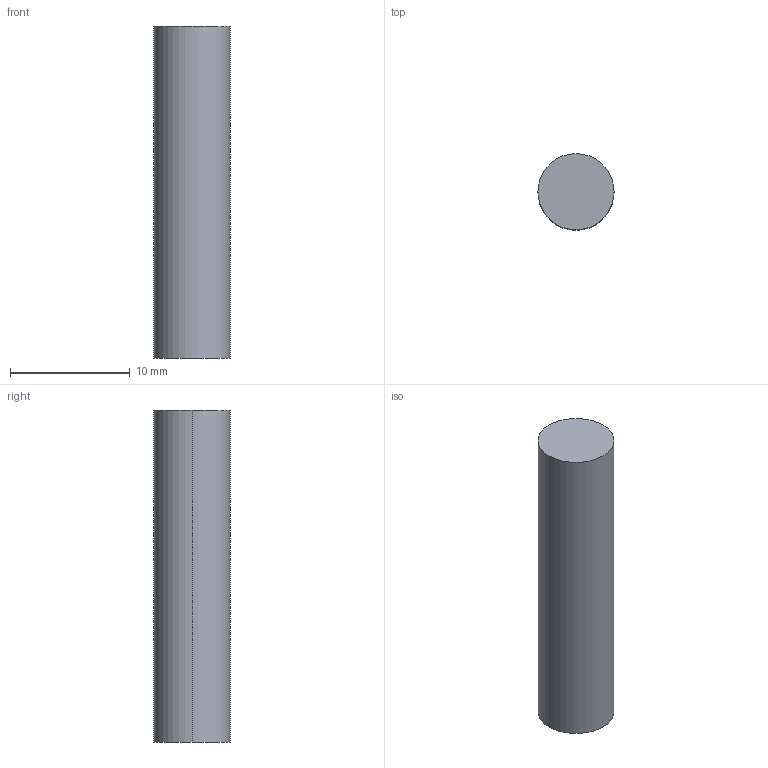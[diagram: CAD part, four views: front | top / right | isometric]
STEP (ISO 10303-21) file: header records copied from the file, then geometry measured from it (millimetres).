
FILE_DESCRIPTION (( 'STEP AP214' ), '1' );
FILE_NAME ('250_rod_1090.STEP', '2015-04-17T00:01:49', ( '' ), ( '' ), 'SwSTEP 2.0', 'SolidWorks 2012', '' );
FILE_SCHEMA (( 'AUTOMOTIVE_DESIGN' ));
Length unit declared in the file: inch
Products named in the file (1): 250_rod_1090
Bounding box: 6.35 x 6.35 x 27.69 mm (x, y, z)
Volume: 876.8 mm3; surface area: 615.6 mm2
Topology: 1 solids, 1 shells, 4 faces, 6 edges, 4 vertices
Faces by surface type: cylinder 2, plane 2
Entity records: 134 total; most frequent: DIRECTION 20, CARTESIAN_POINT 15, ORIENTED_EDGE 12, AXIS2_PLACEMENT_3D 9, EDGE_CURVE 6, ADVANCED_FACE 4, EDGE_LOOP 4, FACE_OUTER_BOUND 4
